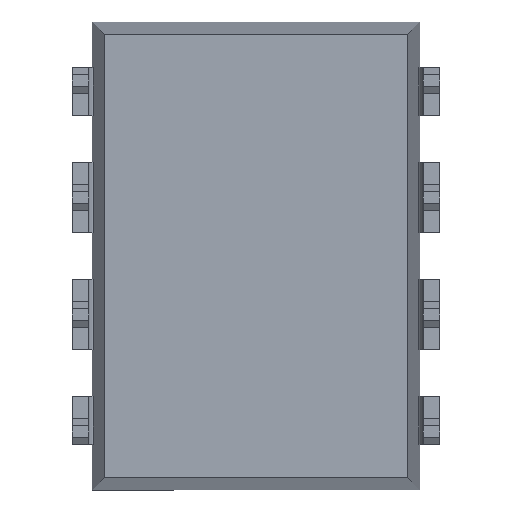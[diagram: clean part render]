
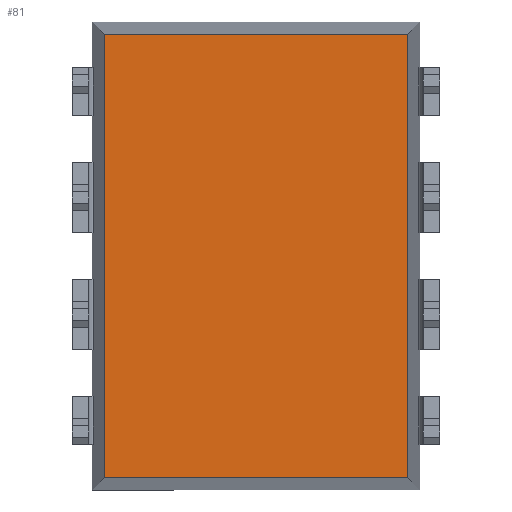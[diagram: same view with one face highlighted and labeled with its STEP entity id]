
A CAD part, front view. The second image highlights one B-rep face of the part: STEP entity #81.
In plain terms, the highlighted planar face has unit normal (0, -1, 0).
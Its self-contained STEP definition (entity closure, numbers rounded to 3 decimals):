
#81 = ADVANCED_FACE ( 'NONE', ( #345 ), #1690, .F. ) ;
#345 = FACE_OUTER_BOUND ( 'NONE', #1721, .T. ) ;
#516 = LINE ( 'NONE', #2349, #520 ) ;
#517 = LINE ( 'NONE', #2348, #522 ) ;
#520 = VECTOR ( 'NONE', #2355, 1000. ) ;
#522 = VECTOR ( 'NONE', #2357, 1000. ) ;
#870 = LINE ( 'NONE', #2753, #873 ) ;
#873 = VECTOR ( 'NONE', #2754, 1000. ) ;
#874 = LINE ( 'NONE', #2744, #881 ) ;
#881 = VECTOR ( 'NONE', #2762, 1000. ) ;
#1091 = EDGE_CURVE ( 'NONE', #1610, #1628, #516, .T. ) ;
#1092 = EDGE_CURVE ( 'NONE', #1633, #1632, #517, .T. ) ;
#1279 = EDGE_CURVE ( 'NONE', #1628, #1633, #870, .T. ) ;
#1283 = EDGE_CURVE ( 'NONE', #1632, #1610, #874, .T. ) ;
#1456 = AXIS2_PLACEMENT_3D ( 'NONE', #3321, #3345, #3349 ) ;
#1610 = VERTEX_POINT ( 'NONE', #2951 ) ;
#1628 = VERTEX_POINT ( 'NONE', #2966 ) ;
#1632 = VERTEX_POINT ( 'NONE', #2970 ) ;
#1633 = VERTEX_POINT ( 'NONE', #2971 ) ;
#1690 = PLANE ( 'NONE',  #1456 ) ;
#1721 = EDGE_LOOP ( 'NONE', ( #3771, #3790, #3755, #3756 ) ) ;
#2348 = CARTESIAN_POINT ( 'NONE',  ( -3.556, 0.381, 4.815 ) ) ;
#2349 = CARTESIAN_POINT ( 'NONE',  ( -3.556, 0.381, -4.815 ) ) ;
#2355 = DIRECTION ( 'NONE',  ( 1., 0., 0. ) ) ;
#2357 = DIRECTION ( 'NONE',  ( -1., 0., 0. ) ) ;
#2744 = CARTESIAN_POINT ( 'NONE',  ( -3.291, 0.381, 5.08 ) ) ;
#2753 = CARTESIAN_POINT ( 'NONE',  ( 3.291, 0.381, 5.08 ) ) ;
#2754 = DIRECTION ( 'NONE',  ( 0., 0., 1. ) ) ;
#2762 = DIRECTION ( 'NONE',  ( 0., 0., -1. ) ) ;
#2951 = CARTESIAN_POINT ( 'NONE',  ( -3.291, 0.381, -4.815 ) ) ;
#2966 = CARTESIAN_POINT ( 'NONE',  ( 3.291, 0.381, -4.815 ) ) ;
#2970 = CARTESIAN_POINT ( 'NONE',  ( -3.291, 0.381, 4.815 ) ) ;
#2971 = CARTESIAN_POINT ( 'NONE',  ( 3.291, 0.381, 4.815 ) ) ;
#3321 = CARTESIAN_POINT ( 'NONE',  ( 0., 0.381, 0. ) ) ;
#3345 = DIRECTION ( 'NONE',  ( 0., 1., 0. ) ) ;
#3349 = DIRECTION ( 'NONE',  ( 0., 0., 1. ) ) ;
#3755 = ORIENTED_EDGE ( 'NONE', *, *, #1279, .T. ) ;
#3756 = ORIENTED_EDGE ( 'NONE', *, *, #1092, .T. ) ;
#3771 = ORIENTED_EDGE ( 'NONE', *, *, #1283, .T. ) ;
#3790 = ORIENTED_EDGE ( 'NONE', *, *, #1091, .T. ) ;
